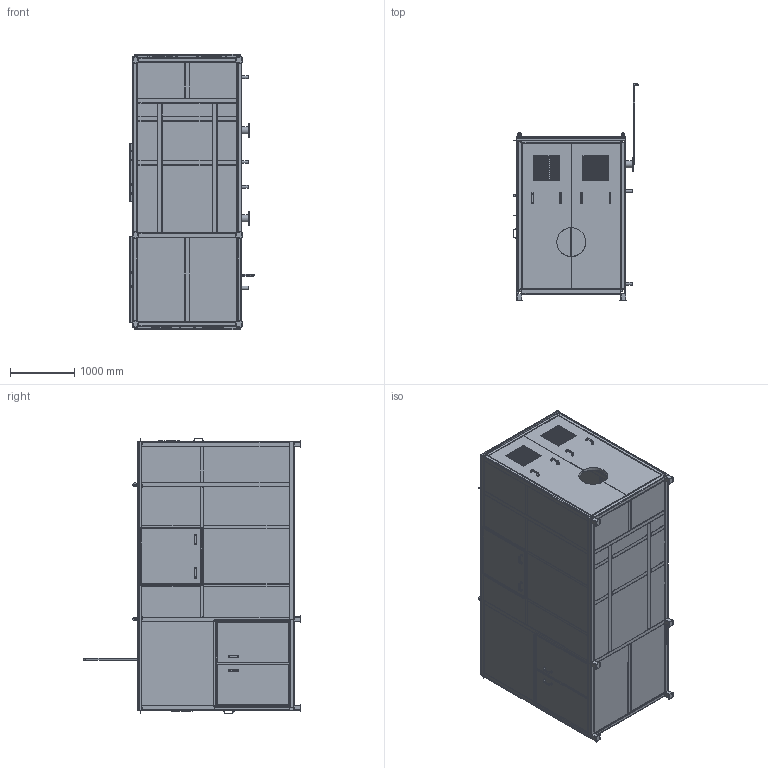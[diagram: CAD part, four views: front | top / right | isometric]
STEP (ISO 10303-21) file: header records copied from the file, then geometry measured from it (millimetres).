
FILE_DESCRIPTION(('STEP AP214'), '1');
FILE_NAME('VS700-900 - 鍕鎀霠罻', '', ('UNSPECIFIED'), ('UNSPECIFIED'), 'C3D Converter', 'C3D Toolkit', '');
FILE_SCHEMA(('AUTOMOTIVE_DESIGN { 1 0 10303 214 3 1 1}'));
Length unit declared in the file: millimetre
Products named in the file (1): VS700-900.00.00.000-01
Bounding box: 1953.4 x 3399.92 x 4306.45 mm (x, y, z)
Volume: 282247385.5 mm3; surface area: 176896158.5 mm2
Topology: 10 solids, 10 shells, 5730 faces, 15107 edges, 8442 vertices
Faces by surface type: plane 3220, cylinder 1546, bspline 820, sphere 80, torus 44, cone 20
Full cylindrical faces by diameter (mm): 3.5 x6, 6.2 x20, 13 x20, 17.294 x4, 18 x16, 20.4 x1, 21.2 x1, 26.8 x2, 38 x1, 38.6 x2, 45 x3, 50 x1, 57 x1, 99 x2, 108 x2, 110 x2, 215 x2, 450 x2
Entity records: 205770 total; most frequent: CARTESIAN_POINT 65100, ORIENTED_EDGE 29336, DIRECTION 26523, EDGE_CURVE 14668, LINE 9629, VECTOR 9629, AXIS2_PLACEMENT_3D 8447, VERTEX_POINT 8440
